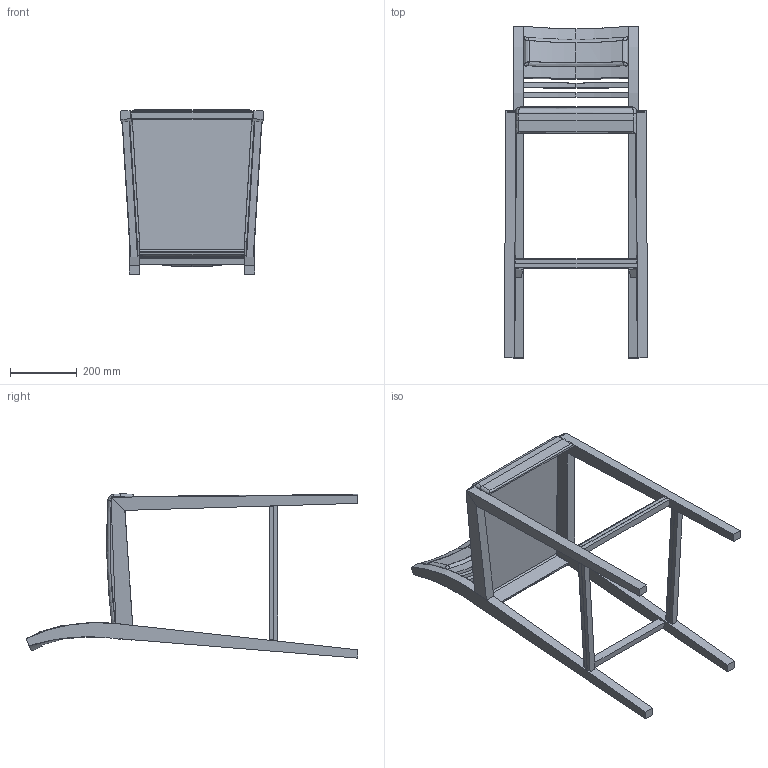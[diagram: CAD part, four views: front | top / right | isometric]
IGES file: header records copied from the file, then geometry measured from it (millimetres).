
Start section: SolidWorks IGES file using analytic representation for surfaces
Global section: file name: C:\Users\Adao\Documents\Trab Adao\Desenho técnico PRODUÇÃO\J M S\CASSIS\Linha CASSIS (sat)\BANCO M-19.IGS; native system: SolidWorks 2012; preprocessor: SolidWorks 2012; author: Adao; date: 121027.101035; units: millimetre
Bounding box: 430.1 x 994.43 x 491.95 mm (x, y, z)
Surface area: 1396336.3 mm2 (no closed solid volume)
Topology: 0 solids, 0 shells, 312 faces, 2849 edges, 2842 vertices
Faces by surface type: bspline 246, revolution 66
